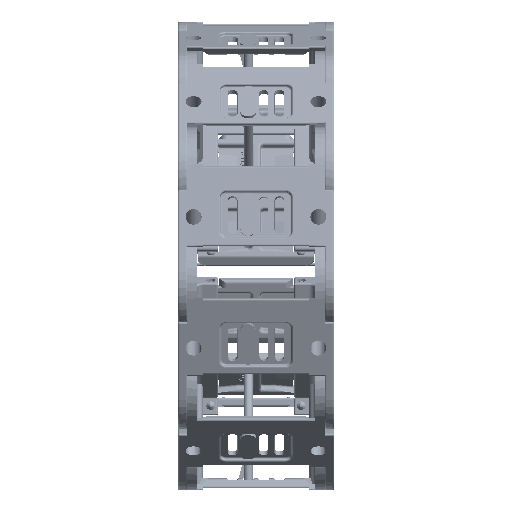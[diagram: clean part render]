
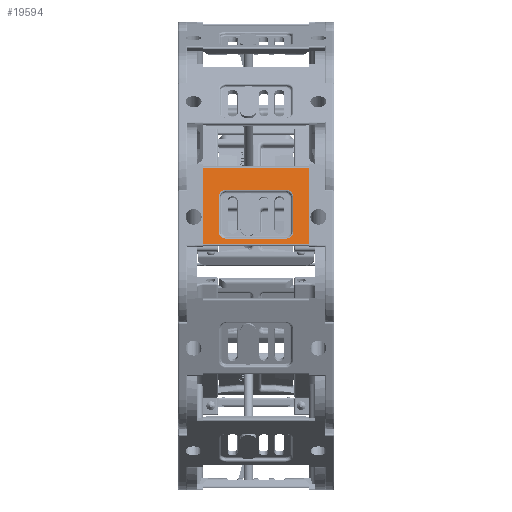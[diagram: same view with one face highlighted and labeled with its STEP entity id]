
A CAD part, front view. The second image highlights one B-rep face of the part: STEP entity #19594.
In plain terms, the highlighted planar face has unit normal (0, -0.979, 0.204) as drawn and (0, 1, 0) by its records, which use the part's own axes.
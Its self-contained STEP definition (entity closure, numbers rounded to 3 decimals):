
#568=CARTESIAN_POINT('',(-8.4,14.5,-5.0));
#569=VERTEX_POINT('',#568);
#577=CARTESIAN_POINT('',(-8.4,14.5,-39.));
#578=VERTEX_POINT('',#577);
#579=CARTESIAN_POINT('',(-8.4,14.5,-5.0));
#580=DIRECTION('',(0.0,0.0,-1.0));
#581=VECTOR('',#580,34.);
#582=LINE('',#579,#581);
#583=EDGE_CURVE('',#569,#578,#582,.T.);
#661=CARTESIAN_POINT('',(-6.601,14.5,-12.5));
#662=VERTEX_POINT('',#661);
#678=CARTESIAN_POINT('',(-6.601,14.5,-31.5));
#679=VERTEX_POINT('',#678);
#687=CARTESIAN_POINT('',(-6.601,14.5,-31.5));
#688=DIRECTION('',(0.0,0.0,1.0));
#689=VECTOR('',#688,19.);
#690=LINE('',#687,#689);
#691=EDGE_CURVE('',#679,#662,#690,.T.);
#703=CARTESIAN_POINT('',(6.899,14.5,-10.));
#704=VERTEX_POINT('',#703);
#720=CARTESIAN_POINT('',(-4.101,14.5,-10.));
#721=VERTEX_POINT('',#720);
#729=CARTESIAN_POINT('',(-4.101,14.5,-10.));
#730=DIRECTION('',(1.0,0.0,0.0));
#731=VECTOR('',#730,11.);
#732=LINE('',#729,#731);
#733=EDGE_CURVE('',#721,#704,#732,.T.);
#762=CARTESIAN_POINT('',(9.399,14.5,-12.5));
#763=VERTEX_POINT('',#762);
#771=CARTESIAN_POINT('',(9.399,14.5,-31.5));
#772=VERTEX_POINT('',#771);
#773=CARTESIAN_POINT('',(9.399,14.5,-12.5));
#774=DIRECTION('',(0.0,0.0,-1.0));
#775=VECTOR('',#774,19.);
#776=LINE('',#773,#775);
#777=EDGE_CURVE('',#763,#772,#776,.T.);
#794=CARTESIAN_POINT('',(16.672,14.5,-39.));
#795=VERTEX_POINT('',#794);
#805=CARTESIAN_POINT('',(16.672,14.5,-5.0));
#806=VERTEX_POINT('',#805);
#807=CARTESIAN_POINT('',(16.672,14.5,-39.));
#808=DIRECTION('',(0.0,0.0,1.0));
#809=VECTOR('',#808,34.);
#810=LINE('',#807,#809);
#811=EDGE_CURVE('',#795,#806,#810,.T.);
#3662=CARTESIAN_POINT('',(6.899,14.5,-34.));
#3663=VERTEX_POINT('',#3662);
#3671=CARTESIAN_POINT('',(-4.101,14.5,-34.));
#3672=VERTEX_POINT('',#3671);
#3673=CARTESIAN_POINT('',(-4.101,14.5,-34.));
#3674=DIRECTION('',(1.0,0.0,0.0));
#3675=VECTOR('',#3674,11.);
#3676=LINE('',#3673,#3675);
#3677=EDGE_CURVE('',#3672,#3663,#3676,.T.);
#7334=CARTESIAN_POINT('',(16.672,14.5,-39.));
#7335=DIRECTION('',(-1.0,0.0,0.0));
#7336=VECTOR('',#7335,25.072);
#7337=LINE('',#7334,#7336);
#7338=EDGE_CURVE('',#795,#578,#7337,.T.);
#7527=CARTESIAN_POINT('',(6.899,14.5,-31.5));
#7528=DIRECTION('',(0.0,-1.0,0.0));
#7529=DIRECTION('',(0.707,0.0,-0.707));
#7530=AXIS2_PLACEMENT_3D('',#7527,#7528,#7529);
#7531=CIRCLE('',#7530,2.5);
#7532=EDGE_CURVE('',#3663,#772,#7531,.T.);
#7552=CARTESIAN_POINT('',(-4.101,14.5,-31.5));
#7553=DIRECTION('',(0.0,-1.,0.0));
#7554=DIRECTION('',(-0.707,0.0,-0.707));
#7555=AXIS2_PLACEMENT_3D('',#7552,#7553,#7554);
#7556=CIRCLE('',#7555,2.5);
#7557=EDGE_CURVE('',#679,#3672,#7556,.T.);
#19343=CARTESIAN_POINT('',(16.672,14.5,-5.0));
#19344=DIRECTION('',(-1.0,0.0,0.0));
#19345=VECTOR('',#19344,25.072);
#19346=LINE('',#19343,#19345);
#19347=EDGE_CURVE('',#806,#569,#19346,.T.);
#19531=CARTESIAN_POINT('',(6.899,14.5,-12.5));
#19532=DIRECTION('',(0.0,1.,0.0));
#19533=DIRECTION('',(0.707,0.0,0.707));
#19534=AXIS2_PLACEMENT_3D('',#19531,#19532,#19533);
#19535=CIRCLE('',#19534,2.5);
#19536=EDGE_CURVE('',#704,#763,#19535,.T.);
#19555=CARTESIAN_POINT('',(-4.101,14.5,-12.5));
#19556=DIRECTION('',(0.0,1.,0.0));
#19557=DIRECTION('',(-0.707,0.0,0.707));
#19558=AXIS2_PLACEMENT_3D('',#19555,#19556,#19557);
#19559=CIRCLE('',#19558,2.5);
#19560=EDGE_CURVE('',#662,#721,#19559,.T.);
#19573=CARTESIAN_POINT('',(17.966,14.5,-27.0));
#19574=DIRECTION('',(0.0,-1.0,0.0));
#19575=DIRECTION('',(0.0,0.0,-1.0));
#19576=AXIS2_PLACEMENT_3D('',#19573,#19574,#19575);
#19577=PLANE('',#19576);
#19578=ORIENTED_EDGE('',*,*,#811,.F.);
#19579=ORIENTED_EDGE('',*,*,#7338,.T.);
#19580=ORIENTED_EDGE('',*,*,#583,.F.);
#19581=ORIENTED_EDGE('',*,*,#19347,.F.);
#19582=EDGE_LOOP('',(#19578,#19579,#19580,#19581));
#19583=FACE_OUTER_BOUND('',#19582,.T.);
#19584=ORIENTED_EDGE('',*,*,#777,.F.);
#19585=ORIENTED_EDGE('',*,*,#19536,.F.);
#19586=ORIENTED_EDGE('',*,*,#733,.F.);
#19587=ORIENTED_EDGE('',*,*,#19560,.F.);
#19588=ORIENTED_EDGE('',*,*,#691,.F.);
#19589=ORIENTED_EDGE('',*,*,#7557,.T.);
#19590=ORIENTED_EDGE('',*,*,#3677,.T.);
#19591=ORIENTED_EDGE('',*,*,#7532,.T.);
#19592=EDGE_LOOP('',(#19584,#19585,#19586,#19587,#19588,#19589,#19590,#19591));
#19593=FACE_BOUND('',#19592,.T.);
#19594=ADVANCED_FACE('',(#19583,#19593),#19577,.F.);
